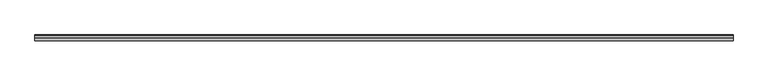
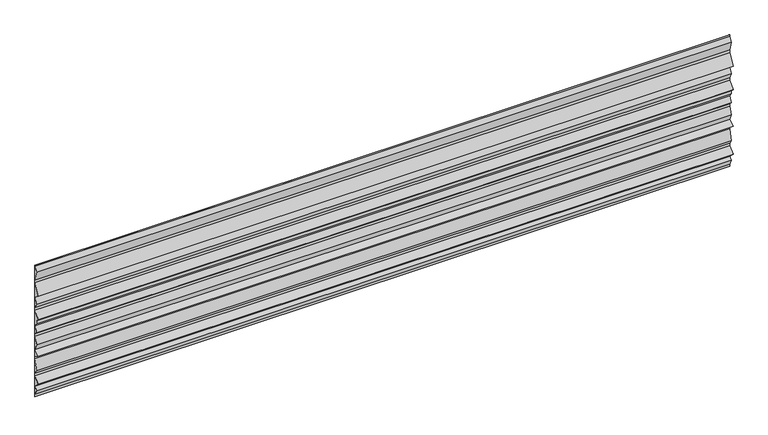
"""IFC4 building model written with IfcOpenShell, lengths in millimetres: plate geometry, ATELIERS 3S_GLACE PISSAILLAS 1000_HORIZONTAL : AZURO."""

import ifcopenshell
import ifcopenshell.guid

model = None  # the IFC model being written
_history = None  # IfcOwnerHistory: only IFC2X3 demands one
_inside = {}  # id of a spatial element -> (the spatial element, [elements in it])
_under = {}  # id of a project, library or spatial element -> (it, [spatial elements below it])
_declared = {}  # id of a project -> (the project, [libraries it declares])
_typed = {}  # id of a type object -> (the type object, [elements of that type])
_made_of = {}  # id of a material, layer set ... -> (it, [elements and type objects made of it])


def new_model(schema):
    """Start an empty IFC model of exactly this schema.

    Asked for "IFC4X3", IfcOpenShell would pick the latest addendum, in which some entities
    have other attributes; the version numbers below select the first issue.
    IFC2X3 requires an IfcOwnerHistory on every rooted entity: one is made here for all.
    """
    global model, _history
    if schema == "IFC4X3":
        model = ifcopenshell.file(schema_version=(4, 3, 0, 0))
    else:
        model = ifcopenshell.file(schema=schema)
    _inside.clear()
    _under.clear()
    _declared.clear()
    _typed.clear()
    _made_of.clear()
    _history = None
    if model.schema == "IFC2X3":
        org = make("IfcOrganization", Name="unknown")
        user = make(
            "IfcPersonAndOrganization",
            ThePerson=make("IfcPerson", FamilyName="unknown"),
            TheOrganization=org,
        )
        app = make(
            "IfcApplication",
            ApplicationDeveloper=org,
            Version="unknown",
            ApplicationFullName="unknown",
            ApplicationIdentifier="unknown",
        )
        _history = make(
            "IfcOwnerHistory",
            OwningUser=user,
            OwningApplication=app,
            ChangeAction="ADDED",
            CreationDate=0,
        )
    return model


def make(cls, **values):
    """One entity of the class cls with the attributes given. An attribute that is None is left unset."""
    return model.create_entity(
        cls, **{name: value for name, value in values.items() if value is not None}
    )


def rooted(cls, **values):
    """An entity with a GlobalId (a new one), such as an element, a storey or a relation."""
    return make(cls, GlobalId=ifcopenshell.guid.new(), OwnerHistory=_history, **values)


def si_unit(unit_type, name, prefix=None):
    """IfcSIUnit, for example si_unit("LENGTHUNIT", "METRE", prefix="MILLI")."""
    return make("IfcSIUnit", UnitType=unit_type, Prefix=prefix, Name=name)


def assignment(units):
    """IfcUnitAssignment: the units of a project."""
    return None if units is None else make("IfcUnitAssignment", Units=units)


def point(xyz):
    """IfcCartesianPoint."""
    return None if xyz is None else make("IfcCartesianPoint", Coordinates=xyz)


def direction(xyz):
    """IfcDirection."""
    return None if xyz is None else make("IfcDirection", DirectionRatios=xyz)


def frame(location, z_axis=None, x_axis=None):
    """IfcAxis2Placement3D, a coordinate frame: its origin and axes. An axis left out is left unset."""
    return make(
        "IfcAxis2Placement3D",
        Location=point(location),
        Axis=direction(z_axis),
        RefDirection=direction(x_axis),
    )


def origin():
    """The frame at (0, 0, 0) with its axes left unset."""
    return frame((0.0, 0.0, 0.0))


def place(relative_to, where):
    """IfcLocalPlacement: puts the frame where relative to a parent placement (None: the world)."""
    return make(
        "IfcLocalPlacement", PlacementRelTo=relative_to, RelativePlacement=where
    )


def context(
    kind, dimensions, precision=None, world=None, true_north=None, identifier=None
):
    """IfcGeometricRepresentationContext, for example the 3D "Model" context."""
    return make(
        "IfcGeometricRepresentationContext",
        ContextIdentifier=identifier,
        ContextType=kind,
        CoordinateSpaceDimension=dimensions,
        Precision=precision,
        WorldCoordinateSystem=world,
        TrueNorth=true_north,
    )


def project(units=None, contexts=None):
    """IfcProject with its units and contexts."""
    return rooted(
        "IfcProject",
        Name="project",
        RepresentationContexts=contexts,
        UnitsInContext=assignment(units),
    )


def spatial(cls, under=None, at=None, **own):
    """A site, building, storey or space (cls), placed at a placement, below another one or the project."""
    s = rooted(cls, ObjectPlacement=at, **own)
    if under is not None:
        _under.setdefault(under.id(), (under, []))[1].append(s)
    return s


def polyline(points):
    """IfcPolyline through the points."""
    return make("IfcPolyline", Points=[point(p) for p in points])


def outline(outer, holes=None, kind="AREA"):
    """IfcArbitraryClosedProfileDef: a profile drawn as a closed curve; with holes, ...WithVoids."""
    if holes is None:
        return make("IfcArbitraryClosedProfileDef", ProfileType=kind, OuterCurve=outer)
    return make(
        "IfcArbitraryProfileDefWithVoids",
        ProfileType=kind,
        OuterCurve=outer,
        InnerCurves=holes,
    )


def extrude(swept, where, along, depth):
    """IfcExtrudedAreaSolid: the profile swept, set in the frame where, extruded along a direction by depth."""
    return make(
        "IfcExtrudedAreaSolid",
        SweptArea=swept,
        Position=where,
        ExtrudedDirection=direction(along),
        Depth=depth,
    )


def shape(context_of_items, identifier, shape_type, items):
    """IfcShapeRepresentation: the items that make up one representation, for example the "Body"."""
    return make(
        "IfcShapeRepresentation",
        ContextOfItems=context_of_items,
        RepresentationIdentifier=identifier,
        RepresentationType=shape_type,
        Items=items,
    )


def source(mapping_origin, context_of_items, identifier, shape_type, items):
    """IfcRepresentationMap: a shape defined once, which mapped items show again and again."""
    return make(
        "IfcRepresentationMap",
        MappingOrigin=mapping_origin,
        MappedRepresentation=shape(context_of_items, identifier, shape_type, items),
    )


def transform(
    local_origin,
    x_axis=None,
    y_axis=None,
    z_axis=None,
    scale=None,
    scale2=None,
    scale3=None,
    uniform=True,
):
    """IfcCartesianTransformationOperator3D, or its non-uniform kind. x_axis, y_axis, z_axis: its Axis1, 2, 3."""
    if uniform:
        return make(
            "IfcCartesianTransformationOperator3D",
            Axis1=direction(x_axis),
            Axis2=direction(y_axis),
            LocalOrigin=point(local_origin),
            Scale=scale,
            Axis3=direction(z_axis),
        )
    return make(
        "IfcCartesianTransformationOperator3DnonUniform",
        Axis1=direction(x_axis),
        Axis2=direction(y_axis),
        LocalOrigin=point(local_origin),
        Scale=scale,
        Axis3=direction(z_axis),
        Scale2=scale2,
        Scale3=scale3,
    )


def mapped(mapping_source, mapping_target):
    """IfcMappedItem: shows the shape of a source again, moved by a transform."""
    return make(
        "IfcMappedItem", MappingSource=mapping_source, MappingTarget=mapping_target
    )


def made_of(thing, what):
    """Note that an element or type object is made of a material, layer set ...; save() writes the relation."""
    if what is not None:
        _made_of.setdefault(what.id(), (what, []))[1].append(thing)
    return thing


def element(
    cls,
    number,
    at=None,
    inside=None,
    cuts=None,
    type_object=None,
    material=None,
    context=None,
    identifier="Body",
    shape_type=None,
    held_by="IfcProductDefinitionShape",
    body=None,
    shapes=None,
    **own,
):
    """One element of the class cls, such as IfcWall. Its Tag is "e" and its number.

    at: its placement. inside: the storey or other place that contains it. cuts: it is an
    opening in that element (IfcRelVoidsElement). A single representation is given by context,
    identifier, shape_type and body (its items); several are given by shapes. held_by: the class
    of the entity that holds the representations. save() writes the other relations.
    """
    e = rooted(cls, Tag="e%d" % number, ObjectPlacement=at, **own)
    if body is not None:
        shapes = [shape(context, identifier, shape_type, body)]
    if shapes is not None:
        e.Representation = make(held_by, Representations=shapes)
    if inside is not None:
        _inside.setdefault(inside.id(), (inside, []))[1].append(e)
    if cuts is not None:
        rooted(
            "IfcRelVoidsElement", RelatingBuildingElement=cuts, RelatedOpeningElement=e
        )
    if type_object is not None:
        _typed.setdefault(type_object.id(), (type_object, []))[1].append(e)
    return made_of(e, material)


def aggregate(whole, parts):
    """IfcRelAggregates: a whole, such as a stair, and the parts it consists of."""
    return rooted("IfcRelAggregates", RelatingObject=whole, RelatedObjects=parts)


def save(model, path):
    """Write the relations noted so far, then the file.

    IfcRelAggregates (storeys below a building ...), IfcRelContainedInSpatialStructure (elements
    in a storey), IfcRelDefinesByType, IfcRelAssociatesMaterial and IfcRelDeclares: one each for
    every whole, place, type object, material and project.
    """
    for whole, parts in _under.values():
        aggregate(whole, parts)
    for where, things in _inside.values():
        rooted(
            "IfcRelContainedInSpatialStructure",
            RelatedElements=things,
            RelatingStructure=where,
        )
    for kind, things in _typed.values():
        rooted("IfcRelDefinesByType", RelatedObjects=things, RelatingType=kind)
    for what, things in _made_of.values():
        rooted("IfcRelAssociatesMaterial", RelatedObjects=things, RelatingMaterial=what)
    for by, libraries in _declared.values():
        rooted("IfcRelDeclares", RelatingContext=by, RelatedDefinitions=libraries)
    model.write(path)


def plate_1b95be21(model_context):
    return source(origin(), model_context, "Body", "SweptSolid", [
        extrude(outline(polyline([(-0.8, 0.0), (-0.8, 16.9163895), (-20.9135393, 57.5498441), (-1.0660999, 76.9962838), (-41.0606602, 116.9908441), (-0.75, 157.3015043), (-0.75, 176.7637624), (-20.8080747, 206.8508744), (-0.75, 287.0831733), (-0.75, 306.5751584), (-41.4150972, 331.9908441), (-0.9292392, 357.2945053), (-20.8077747, 406.9908441), (-0.75, 457.1352809), (-0.75, 476.6801839), (-20.9125704, 496.8427543), (-0.8654665, 536.9369621), (-20.75, 566.7637624), (-20.75, 586.6801839), (-41.009736, 606.9399199), (-0.75, 656.2580964), (-0.75, 675.8137931), (-20.8385255, 715.9908441), (-0.9507458, 755.7664035), (-40.9507458, 785.7664035), (-0.75, 866.1678951), (-0.75, 885.8862432), (-20.8096981, 956.4025169), (-0.8, 990.1124394), (-0.8, 1000.0), (0.0, 1000.0), (0.0, 0.0), (-0.8, 0.0)])), frame((-2500.0, 0.0, 0.0), z_axis=(1.0, 0.0, 0.0), x_axis=(0.0, 1.0, 0.0)), (0.0, 0.0, 1.0), 5000.0),
    ])


if __name__ == "__main__":
    model = new_model("IFC4")
    model_context = context("Model", 3, world=origin())
    ifc_project = project(units=[si_unit("LENGTHUNIT", "METRE", prefix="MILLI")], contexts=[model_context])
    site = spatial("IfcSite", under=ifc_project)
    building = spatial("IfcBuilding", under=site)
    placement = place(None, origin())
    plate_shape = plate_1b95be21(model_context)
    element("IfcPlate", 1, ObjectType="ATELIERS 3S_GLACE PISSAILLAS 1000_HORIZONTAL : AZURO", at=placement, inside=building, context=model_context, shape_type="MappedRepresentation", body=[
        mapped(plate_shape, transform((0.0, 0.0, 0.0), x_axis=(1.0, 0.0, 0.0), y_axis=(0.0, 1.0, 0.0), z_axis=(0.0, 0.0, 1.0))),
    ])
    save(model, "model.ifc")
